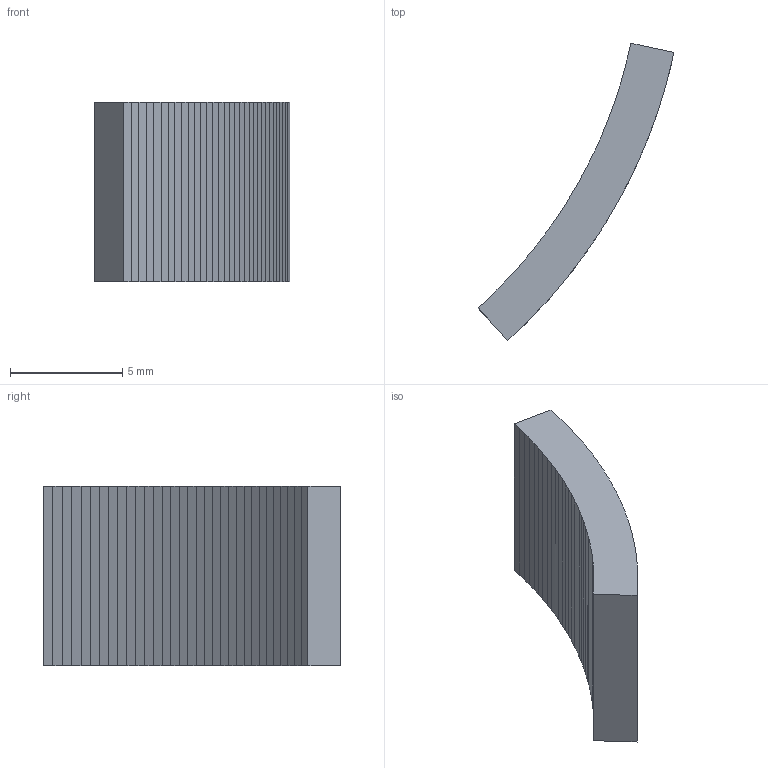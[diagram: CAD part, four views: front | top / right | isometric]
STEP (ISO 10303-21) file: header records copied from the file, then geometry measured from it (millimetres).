
FILE_DESCRIPTION(('Open CASCADE Model'),'2;1');
FILE_NAME('Open CASCADE Shape Model','2026-10-04T01:02:30',('Author'),( 'Open CASCADE'),'Open CASCADE STEP processor 8.0','Open CASCADE 8.0' ,'Unknown');
FILE_SCHEMA(('AUTOMOTIVE_DESIGN { 1 0 10303 214 1 1 1 1 }'));
Length unit declared in the file: millimetre
Products named in the file (1): Open CASCADE STEP translator 8.0 195
Bounding box: 8.73 x 13.25 x 8 mm (x, y, z)
Volume: 226.8 mm3; surface area: 319.5 mm2
Topology: 1 solids, 1 shells, 68 faces, 198 edges, 132 vertices
Faces by surface type: plane 68
Entity records: 4786 total; most frequent: CARTESIAN_POINT 795, DIRECTION 732, LINE 594, VECTOR 594, ORIENTED_EDGE 396, PCURVE 396, DEFINITIONAL_REPRESENTATION 396, EDGE_CURVE 198
